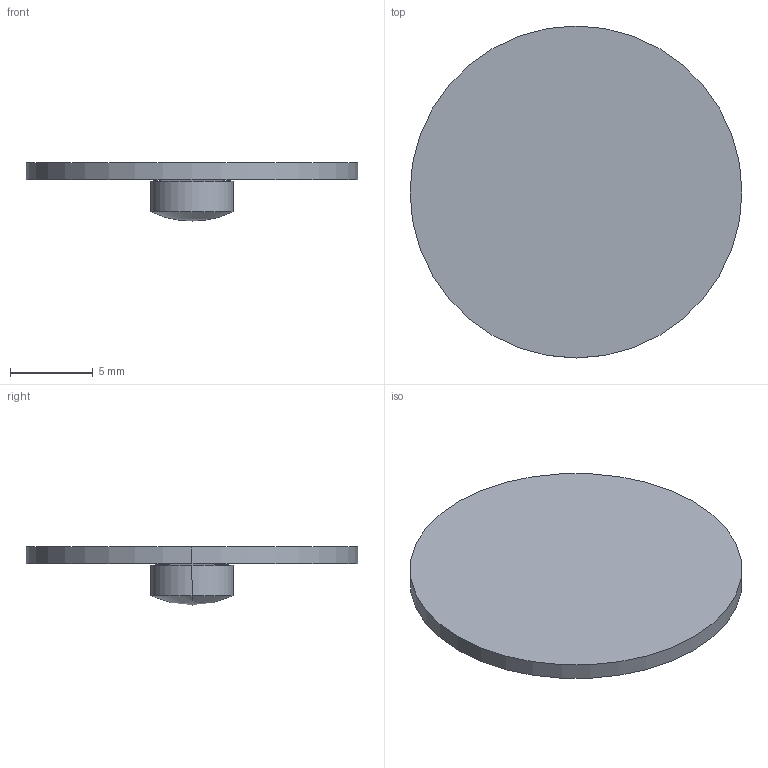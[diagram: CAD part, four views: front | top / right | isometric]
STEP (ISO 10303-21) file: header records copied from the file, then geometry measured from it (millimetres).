
FILE_DESCRIPTION(('STEP AP214'),'1');
FILE_NAME('LLU-3-10.STEP','2020-03-09T17:42:12',(' '),(' '),'Spatial InterOp 3D',' ',' ');
FILE_SCHEMA(('AUTOMOTIVE_DESIGN { 1 0 10303 214 1 1 1 1 }'));
Length unit declared in the file: millimetre
Products named in the file (1): 1
Bounding box: 20 x 20 x 3.5 mm (x, y, z)
Volume: 356.8 mm3; surface area: 760.2 mm2
Topology: 2 solids, 2 shells, 10 faces, 20 edges, 10 vertices
Faces by surface type: sphere 4, cylinder 4, plane 2
Entity records: 255 total; most frequent: DIRECTION 52, CARTESIAN_POINT 38, ORIENTED_EDGE 32, AXIS2_PLACEMENT_3D 24, EDGE_CURVE 16, CIRCLE 12, ADVANCED_FACE 10, FACE_OUTER_BOUND 10
